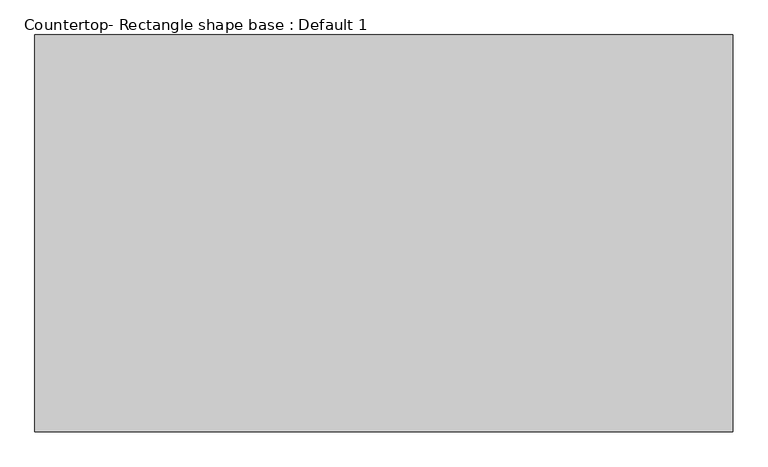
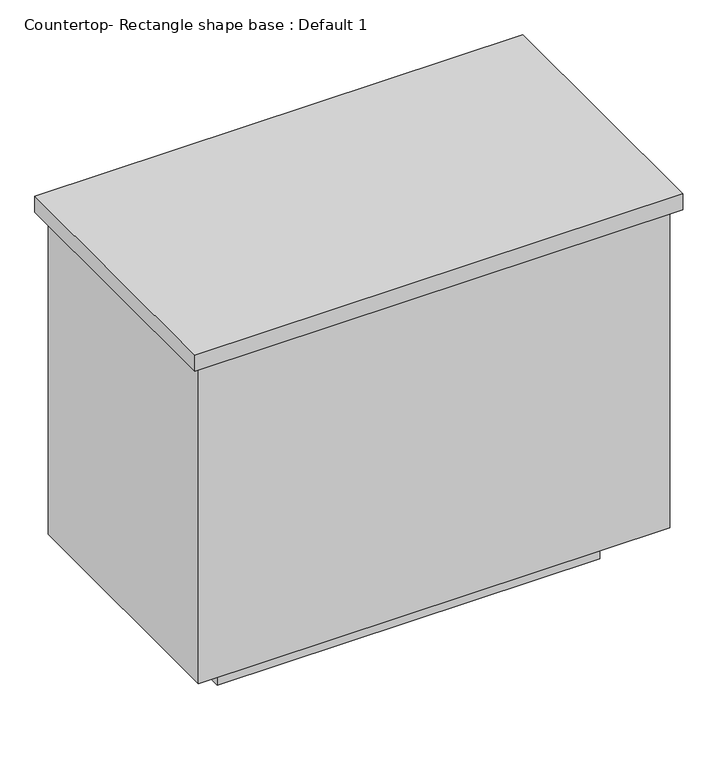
"""IFC4 building model written with IfcOpenShell, lengths in millimetres: proxy geometry, Countertop- Rectangle shape base : Default 1."""

from ifc_helpers import new_model, si_unit, frame, origin, origin_with_axes, place, context, project, spatial, polyline, outline, extrude, source, transform, mapped, element, save


def countertop_rectangle_shape_base_default_1_419f4a6f(model_context):
    return source(origin(), model_context, "Body", "SweptSolid", [
        extrude(outline(polyline([(203.2, 63.5), (203.2, 698.5), (1320.8, 698.5), (1320.8, 63.5), (203.2, 63.5)])), frame((0.0, 0.0, 876.3), z_axis=(0.0, 0.0, 1.0), x_axis=(1.0, 0.0, 0.0)), (0.0, 0.0, 1.0), 38.1),
        extrude(outline(polyline([(1301.75, 679.45), (1301.75, 82.55), (222.25, 82.55), (222.25, 679.45), (1301.75, 679.45)])), frame((0.0, 0.0, 101.6), z_axis=(0.0, 0.0, 1.0), x_axis=(1.0, 0.0, 0.0)), (0.0, 0.0, 1.0), 774.7),
        extrude(outline(polyline([(1200.15, 577.85), (1200.15, 184.15), (323.85, 184.15), (323.85, 577.85), (1200.15, 577.85)])), origin_with_axes(), (0.0, 0.0, 1.0), 101.6),
    ])


if __name__ == "__main__":
    model = new_model("IFC4")
    model_context = context("Model", 3, world=origin())
    ifc_project = project(units=[si_unit("LENGTHUNIT", "METRE", prefix="MILLI")], contexts=[model_context])
    site = spatial("IfcSite", under=ifc_project)
    building = spatial("IfcBuilding", under=site)
    placement = place(None, origin())
    countertop_rectangle_shape_base_default_1_shape = countertop_rectangle_shape_base_default_1_419f4a6f(model_context)
    element("IfcBuildingElementProxy", 1, Name="Countertop- Rectangle shape base : Default 1", ObjectType="Countertop- Rectangle shape base : Default 1", at=placement, inside=building, context=model_context, shape_type="MappedRepresentation", body=[
        mapped(countertop_rectangle_shape_base_default_1_shape, transform((0.0, 0.0, 0.0), x_axis=(1.0, 0.0, 0.0), y_axis=(0.0, 1.0, 0.0), z_axis=(0.0, 0.0, 1.0))),
    ])
    save(model, "model.ifc")
